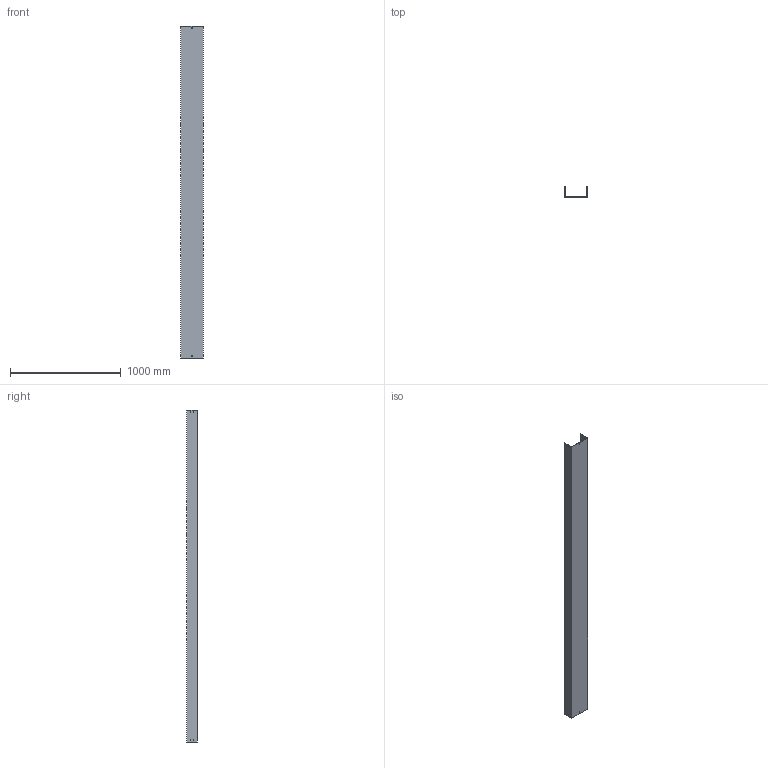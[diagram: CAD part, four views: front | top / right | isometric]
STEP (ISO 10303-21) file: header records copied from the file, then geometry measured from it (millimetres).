
FILE_DESCRIPTION (( 'STEP AP214' ), '1' );
FILE_NAME ('03B3I200.step', '2025-02-21T10:27:25', ( '' ), ( '' ), 'SwSTEP 2.0', 'SolidWorks 2023', '' );
FILE_SCHEMA (( 'AUTOMOTIVE_DESIGN' ));
Length unit declared in the file: millimetre
Products named in the file (1): 03B3I200
Bounding box: 204 x 92.5 x 3000 mm (x, y, z)
Volume: 4008630.5 mm3; surface area: 2315489 mm2
Topology: 1 solids, 1 shells, 50 faces, 144 edges, 96 vertices
Faces by surface type: plane 50
Entity records: 1671 total; most frequent: CARTESIAN_POINT 291, ORIENTED_EDGE 288, DIRECTION 246, EDGE_CURVE 144, VECTOR 144, LINE 144, VERTEX_POINT 96, EDGE_LOOP 70
